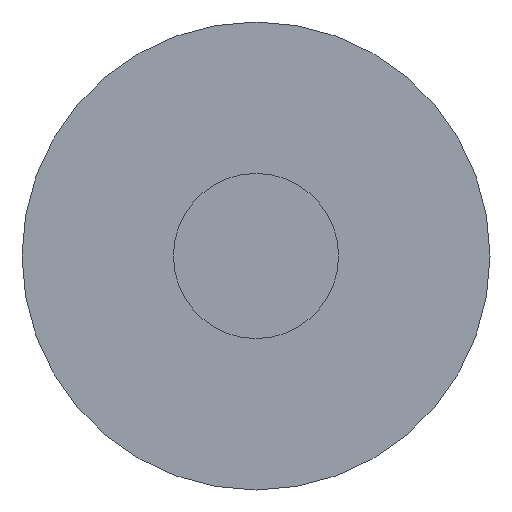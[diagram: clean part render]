
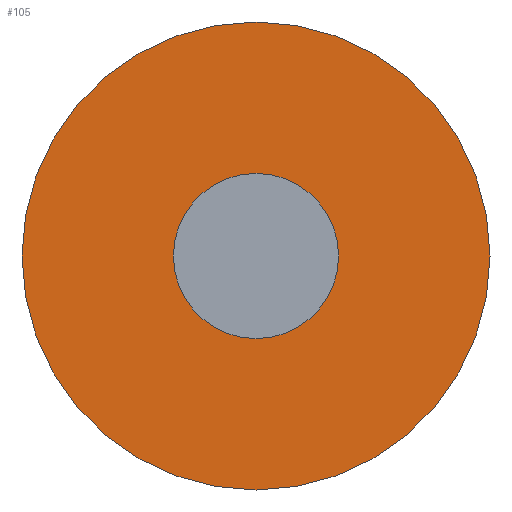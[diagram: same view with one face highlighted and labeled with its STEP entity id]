
A CAD part, front view. The second image highlights one B-rep face of the part: STEP entity #105.
In plain terms, the highlighted planar face has unit normal (0, -1, 0).
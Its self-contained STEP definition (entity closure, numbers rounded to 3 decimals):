
#22 = VERTEX_POINT('',#23);
#23 = CARTESIAN_POINT('',(68.,57.2,-223.));
#32 = CYLINDRICAL_SURFACE('',#33,9.);
#33 = AXIS2_PLACEMENT_3D('',#34,#35,#36);
#34 = CARTESIAN_POINT('',(59.,57.2,-223.));
#35 = DIRECTION('',(0.,-1.,-0.));
#36 = DIRECTION('',(1.,0.,0.));
#79 = EDGE_CURVE('',#22,#22,#80,.T.);
#80 = SURFACE_CURVE('',#81,(#86,#93),.PCURVE_S1.);
#81 = CIRCLE('',#82,9.);
#82 = AXIS2_PLACEMENT_3D('',#83,#84,#85);
#83 = CARTESIAN_POINT('',(59.,57.2,-223.));
#84 = DIRECTION('',(-0.,1.,0.));
#85 = DIRECTION('',(1.,0.,0.));
#86 = PCURVE('',#32,#87);
#87 = DEFINITIONAL_REPRESENTATION('',(#88),#92);
#88 = LINE('',#89,#90);
#89 = CARTESIAN_POINT('',(-0.,0.));
#90 = VECTOR('',#91,1.);
#91 = DIRECTION('',(-1.,0.));
#92 = ( GEOMETRIC_REPRESENTATION_CONTEXT(2) 
PARAMETRIC_REPRESENTATION_CONTEXT() REPRESENTATION_CONTEXT('2D SPACE',''
  ) );
#93 = PCURVE('',#94,#99);
#94 = PLANE('',#95);
#95 = AXIS2_PLACEMENT_3D('',#96,#97,#98);
#96 = CARTESIAN_POINT('',(59.,57.2,-223.));
#97 = DIRECTION('',(0.,1.,0.));
#98 = DIRECTION('',(0.,-0.,1.));
#99 = DEFINITIONAL_REPRESENTATION('',(#100),#104);
#100 = CIRCLE('',#101,9.);
#101 = AXIS2_PLACEMENT_2D('',#102,#103);
#102 = CARTESIAN_POINT('',(0.,0.));
#103 = DIRECTION('',(0.,1.));
#104 = ( GEOMETRIC_REPRESENTATION_CONTEXT(2) 
PARAMETRIC_REPRESENTATION_CONTEXT() REPRESENTATION_CONTEXT('2D SPACE',''
  ) );
#105 = ADVANCED_FACE('',(#106,#109),#94,.F.);
#106 = FACE_BOUND('',#107,.F.);
#107 = EDGE_LOOP('',(#108));
#108 = ORIENTED_EDGE('',*,*,#79,.T.);
#109 = FACE_BOUND('',#110,.F.);
#110 = EDGE_LOOP('',(#111));
#111 = ORIENTED_EDGE('',*,*,#112,.F.);
#112 = EDGE_CURVE('',#113,#113,#115,.T.);
#113 = VERTEX_POINT('',#114);
#114 = CARTESIAN_POINT('',(62.175,57.2,-223.));
#115 = SURFACE_CURVE('',#116,(#121,#128),.PCURVE_S1.);
#116 = CIRCLE('',#117,3.175);
#117 = AXIS2_PLACEMENT_3D('',#118,#119,#120);
#118 = CARTESIAN_POINT('',(59.,57.2,-223.));
#119 = DIRECTION('',(-0.,1.,0.));
#120 = DIRECTION('',(1.,0.,0.));
#121 = PCURVE('',#94,#122);
#122 = DEFINITIONAL_REPRESENTATION('',(#123),#127);
#123 = CIRCLE('',#124,3.175);
#124 = AXIS2_PLACEMENT_2D('',#125,#126);
#125 = CARTESIAN_POINT('',(0.,0.));
#126 = DIRECTION('',(0.,1.));
#127 = ( GEOMETRIC_REPRESENTATION_CONTEXT(2) 
PARAMETRIC_REPRESENTATION_CONTEXT() REPRESENTATION_CONTEXT('2D SPACE',''
  ) );
#128 = PCURVE('',#129,#134);
#129 = CYLINDRICAL_SURFACE('',#130,3.175);
#130 = AXIS2_PLACEMENT_3D('',#131,#132,#133);
#131 = CARTESIAN_POINT('',(59.,9.2,-223.));
#132 = DIRECTION('',(0.,-1.,-0.));
#133 = DIRECTION('',(1.,0.,0.));
#134 = DEFINITIONAL_REPRESENTATION('',(#135),#139);
#135 = LINE('',#136,#137);
#136 = CARTESIAN_POINT('',(-0.,-48.));
#137 = VECTOR('',#138,1.);
#138 = DIRECTION('',(-1.,0.));
#139 = ( GEOMETRIC_REPRESENTATION_CONTEXT(2) 
PARAMETRIC_REPRESENTATION_CONTEXT() REPRESENTATION_CONTEXT('2D SPACE',''
  ) );
